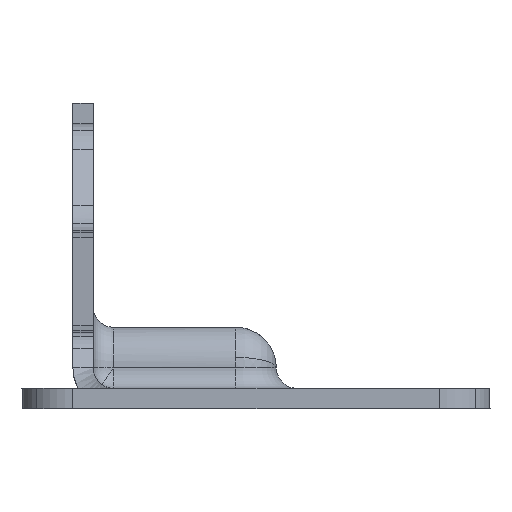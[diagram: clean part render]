
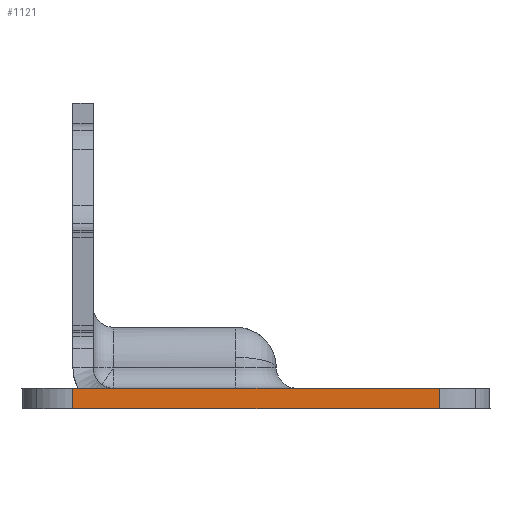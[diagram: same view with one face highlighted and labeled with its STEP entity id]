
A CAD part, left-side view. The second image highlights one B-rep face of the part: STEP entity #1121.
In plain terms, the highlighted planar face has unit normal (-1, 0, 0).
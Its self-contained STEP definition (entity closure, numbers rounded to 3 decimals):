
#273=CARTESIAN_POINT('Vertex',(-453.,640.5,2.9)) ;
#276=CARTESIAN_POINT('Line Origine',(-453.,622.5,2.9)) ;
#280=CARTESIAN_POINT('Vertex',(-453.,604.5,2.9)) ;
#1083=CARTESIAN_POINT('Vertex',(-453.,640.5,0.9)) ;
#1086=CARTESIAN_POINT('Line Origine',(-453.,640.5,0.9)) ;
#1098=CARTESIAN_POINT('Axis2P3D Location',(-453.,622.5,0.9)) ;
#1103=CARTESIAN_POINT('Line Origine',(-453.,622.5,0.9)) ;
#1107=CARTESIAN_POINT('Vertex',(-453.,604.5,0.9)) ;
#1110=CARTESIAN_POINT('Line Origine',(-453.,604.5,1.9)) ;
#277=DIRECTION('Vector Direction',(0.,1.,0.)) ;
#1087=DIRECTION('Vector Direction',(0.,0.,-1.)) ;
#1099=DIRECTION('Axis2P3D Direction',(-1.,0.,0.)) ;
#1100=DIRECTION('Axis2P3D XDirection',(0.,1.,0.)) ;
#1104=DIRECTION('Vector Direction',(0.,1.,0.)) ;
#1111=DIRECTION('Vector Direction',(0.,0.,-1.)) ;
#1101=AXIS2_PLACEMENT_3D('Plane Axis2P3D',#1098,#1099,#1100) ;
#1116=ORIENTED_EDGE('',*,*,#1109,.F.) ;
#1117=ORIENTED_EDGE('',*,*,#1114,.F.) ;
#1118=ORIENTED_EDGE('',*,*,#282,.T.) ;
#1119=ORIENTED_EDGE('',*,*,#1090,.T.) ;
#278=VECTOR('Line Direction',#277,1.) ;
#1088=VECTOR('Line Direction',#1087,1.) ;
#1105=VECTOR('Line Direction',#1104,1.) ;
#1112=VECTOR('Line Direction',#1111,1.) ;
#1121=ADVANCED_FACE('\X2\51E04F554F53\X0\.1',(#1120),#1102,.T.) ;
#282=EDGE_CURVE('',#281,#274,#279,.T.) ;
#1090=EDGE_CURVE('',#274,#1084,#1089,.T.) ;
#1109=EDGE_CURVE('',#1108,#1084,#1106,.T.) ;
#1114=EDGE_CURVE('',#281,#1108,#1113,.T.) ;
#1115=EDGE_LOOP('',(#1116,#1117,#1118,#1119)) ;
#1120=FACE_OUTER_BOUND('',#1115,.T.) ;
#279=LINE('Line',#276,#278) ;
#1089=LINE('Line',#1086,#1088) ;
#1106=LINE('Line',#1103,#1105) ;
#1113=LINE('Line',#1110,#1112) ;
#1102=PLANE('Plane',#1101) ;
#274=VERTEX_POINT('',#273) ;
#281=VERTEX_POINT('',#280) ;
#1084=VERTEX_POINT('',#1083) ;
#1108=VERTEX_POINT('',#1107) ;
